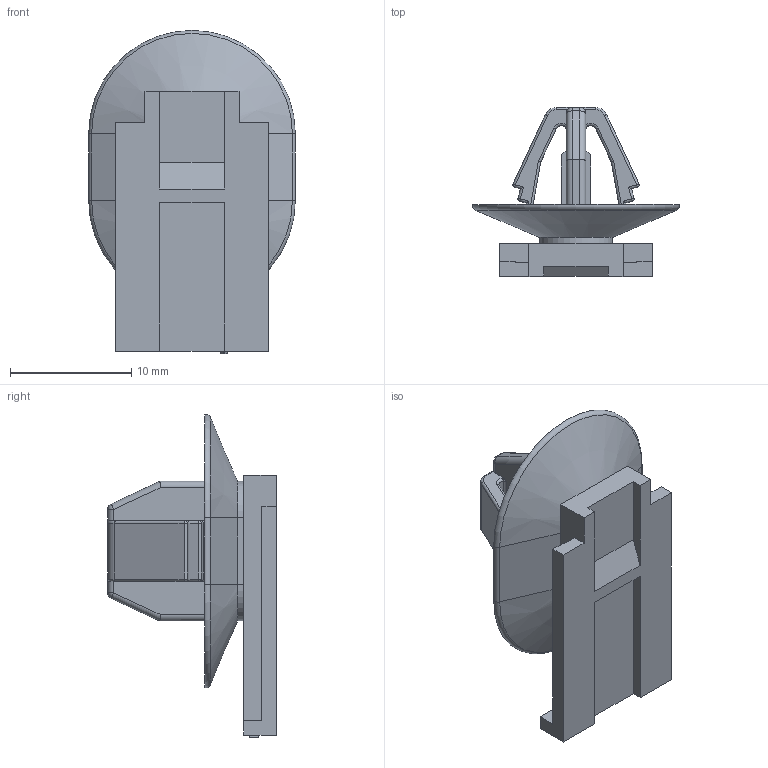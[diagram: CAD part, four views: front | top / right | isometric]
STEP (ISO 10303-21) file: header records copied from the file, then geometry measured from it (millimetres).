
FILE_DESCRIPTION((''),'2;1');
FILE_NAME('C-2005362-2','2015-12-18T',('workeradm'),('Tyco Electronics Ltd.'),'CREO PARAMETRIC BY PTC INC, 2015200','CREO PARAMETRIC BY PTC INC, 2015200','');
FILE_SCHEMA(('AUTOMOTIVE_DESIGN { 1 0 10303 214 1 1 1 1 }'));
Length unit declared in the file: millimetre
Products named in the file (1): C-2005362-2
Bounding box: 17.02 x 13.9 x 26.61 mm (x, y, z)
Volume: 991.9 mm3; surface area: 1801.6 mm2
Topology: 1 solids, 1 shells, 187 faces, 448 edges, 266 vertices
Faces by surface type: plane 82, cylinder 69, sphere 18, torus 14, cone 4
Entity records: 5564 total; most frequent: CARTESIAN_POINT 1188, DIRECTION 912, ORIENTED_EDGE 896, EDGE_CURVE 448, AXIS2_PLACEMENT_3D 310, VECTOR 292, LINE 292, VERTEX_POINT 266
